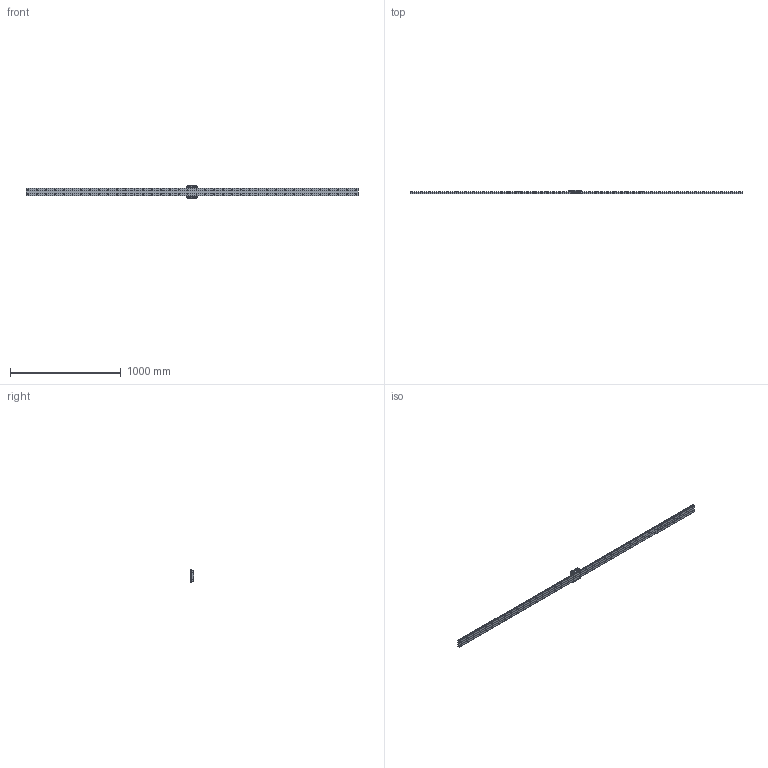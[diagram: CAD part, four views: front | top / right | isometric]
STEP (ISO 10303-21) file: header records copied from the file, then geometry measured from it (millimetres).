
FILE_DESCRIPTION(/* description */ ('STEP AP214'),/* implementation_level */ '2;1');
FILE_NAME(/* name */ 'HRW35CA1SS-3000L_G20_0_B-M6F_1446-7_0_0_0_1',/* time_stamp */ '2023-09-26T15:05:29+02:00',/* author */ ('License CC BY-ND 4.0'),/* organization */ ('CADENAS'),/* preprocessor_version */ 'ST-DEVELOPER v19.3',/* originating_system */ 'PARTsolutions',/* authorisation */ ' ');
FILE_SCHEMA (('AUTOMOTIVE_DESIGN {1 0 10303 214 3 1 1}'));
Length unit declared in the file: millimetre
Products named in the file (4): HRW35CA1SS-3000L_G20_0_B-M6F_1446-7_0_0_0_1; HRW-B-M6F_grease_nipple_joint; HRW35CASSB-M6F1 Slide17-60; HRW35CA300020 Track
Assembly tree (3 placements, depth 2):
  HRW35CA1SS-3000L_G20_0_B-M6F_1446-7_0_0_0_1
    HRW-B-M6F_grease_nipple_joint
    HRW35CASSB-M6F1 Slide17-60
    HRW35CA300020 Track
Bounding box: 3000 x 35 x 120 mm (x, y, z)
Volume: 3729344.9 mm3; surface area: 625287.6 mm2
Topology: 3 solids, 3 shells, 482 faces, 1136 edges, 745 vertices
Faces by surface type: plane 254, cylinder 192, cone 25, torus 8, sphere 3
Full cylindrical faces by diameter (mm): 3 x6, 4.917 x2, 6 x1, 6.647 x2, 6.8 x4, 7 x76, 8 x1, 11 x76, 11.5 x2
Entity records: 13365 total; most frequent: CARTESIAN_POINT 2309, DIRECTION 2296, ORIENTED_EDGE 1856, FACE_BOUND 933, EDGE_LOOP 931, EDGE_CURVE 928, AXIS2_PLACEMENT_3D 918, VERTEX_POINT 739
